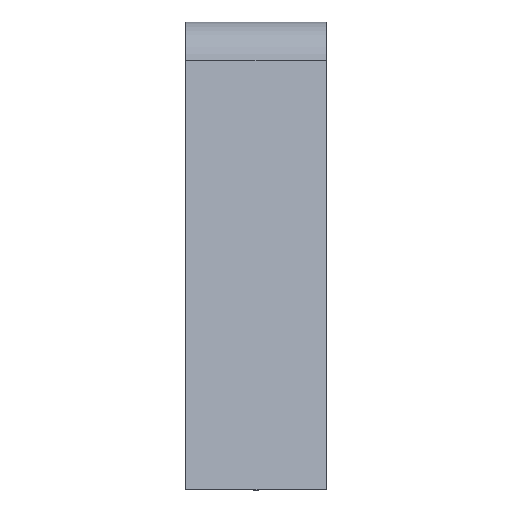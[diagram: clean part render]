
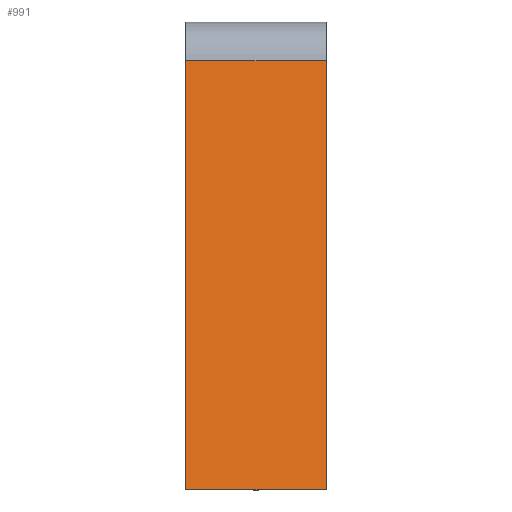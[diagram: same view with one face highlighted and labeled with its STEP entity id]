
A CAD part, left-side view. The second image highlights one B-rep face of the part: STEP entity #991.
In plain terms, the highlighted planar face has unit normal (-0.986, 0, 0.168).
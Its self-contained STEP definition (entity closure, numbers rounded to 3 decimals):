
#907=CARTESIAN_POINT('',(-44.743,-6.,16.673));
#908=VERTEX_POINT('',#907);
#916=CARTESIAN_POINT('',(-51.0,-6.,-20.0));
#917=VERTEX_POINT('',#916);
#918=CARTESIAN_POINT('',(-51.0,-6.,-20.0));
#919=DIRECTION('',(0.168,0.,0.986));
#920=VECTOR('',#919,37.203);
#921=LINE('',#918,#920);
#922=EDGE_CURVE('',#917,#908,#921,.T.);
#961=CARTESIAN_POINT('',(-51.0,6.,-20.));
#962=DIRECTION('',(-0.986,0.,0.168));
#963=DIRECTION('',(-0.168,0.,-0.986));
#964=AXIS2_PLACEMENT_3D('',#961,#962,#963);
#965=PLANE('',#964);
#966=ORIENTED_EDGE('',*,*,#922,.T.);
#967=CARTESIAN_POINT('',(-44.743,6.,16.673));
#968=VERTEX_POINT('',#967);
#969=CARTESIAN_POINT('',(-44.743,6.,16.673));
#970=DIRECTION('',(0.0,-1.0,0.0));
#971=VECTOR('',#970,12.0);
#972=LINE('',#969,#971);
#973=EDGE_CURVE('',#968,#908,#972,.T.);
#974=ORIENTED_EDGE('',*,*,#973,.F.);
#975=CARTESIAN_POINT('',(-51.0,6.,-20.));
#976=VERTEX_POINT('',#975);
#977=CARTESIAN_POINT('',(-44.743,6.,16.673));
#978=DIRECTION('',(-0.168,0.,-0.986));
#979=VECTOR('',#978,37.203);
#980=LINE('',#977,#979);
#981=EDGE_CURVE('',#968,#976,#980,.T.);
#982=ORIENTED_EDGE('',*,*,#981,.T.);
#983=CARTESIAN_POINT('',(-51.0,6.,-20.));
#984=DIRECTION('',(0.0,-1.0,0.0));
#985=VECTOR('',#984,12.0);
#986=LINE('',#983,#985);
#987=EDGE_CURVE('',#976,#917,#986,.T.);
#988=ORIENTED_EDGE('',*,*,#987,.T.);
#989=EDGE_LOOP('',(#966,#974,#982,#988));
#990=FACE_OUTER_BOUND('',#989,.T.);
#991=ADVANCED_FACE('',(#990),#965,.T.);
